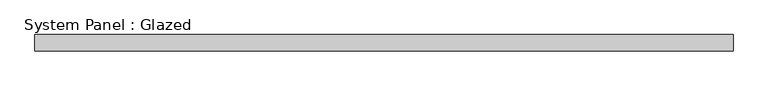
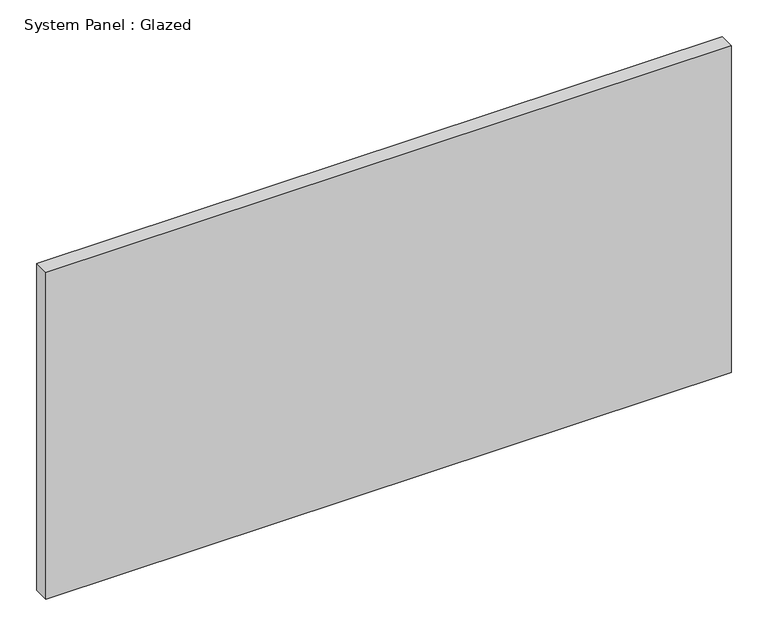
"""IFC4 building model written with IfcOpenShell, lengths in millimetres: plate geometry, System Panel : Glazed."""

import ifcopenshell
import ifcopenshell.guid

model = None  # the IFC model being written
_history = None  # IfcOwnerHistory: only IFC2X3 demands one
_inside = {}  # id of a spatial element -> (the spatial element, [elements in it])
_under = {}  # id of a project, library or spatial element -> (it, [spatial elements below it])
_declared = {}  # id of a project -> (the project, [libraries it declares])
_typed = {}  # id of a type object -> (the type object, [elements of that type])
_made_of = {}  # id of a material, layer set ... -> (it, [elements and type objects made of it])


def new_model(schema):
    """Start an empty IFC model of exactly this schema.

    Asked for "IFC4X3", IfcOpenShell would pick the latest addendum, in which some entities
    have other attributes; the version numbers below select the first issue.
    IFC2X3 requires an IfcOwnerHistory on every rooted entity: one is made here for all.
    """
    global model, _history
    if schema == "IFC4X3":
        model = ifcopenshell.file(schema_version=(4, 3, 0, 0))
    else:
        model = ifcopenshell.file(schema=schema)
    _inside.clear()
    _under.clear()
    _declared.clear()
    _typed.clear()
    _made_of.clear()
    _history = None
    if model.schema == "IFC2X3":
        org = make("IfcOrganization", Name="unknown")
        user = make(
            "IfcPersonAndOrganization",
            ThePerson=make("IfcPerson", FamilyName="unknown"),
            TheOrganization=org,
        )
        app = make(
            "IfcApplication",
            ApplicationDeveloper=org,
            Version="unknown",
            ApplicationFullName="unknown",
            ApplicationIdentifier="unknown",
        )
        _history = make(
            "IfcOwnerHistory",
            OwningUser=user,
            OwningApplication=app,
            ChangeAction="ADDED",
            CreationDate=0,
        )
    return model


def make(cls, **values):
    """One entity of the class cls with the attributes given. An attribute that is None is left unset."""
    return model.create_entity(
        cls, **{name: value for name, value in values.items() if value is not None}
    )


def rooted(cls, **values):
    """An entity with a GlobalId (a new one), such as an element, a storey or a relation."""
    return make(cls, GlobalId=ifcopenshell.guid.new(), OwnerHistory=_history, **values)


def si_unit(unit_type, name, prefix=None):
    """IfcSIUnit, for example si_unit("LENGTHUNIT", "METRE", prefix="MILLI")."""
    return make("IfcSIUnit", UnitType=unit_type, Prefix=prefix, Name=name)


def assignment(units):
    """IfcUnitAssignment: the units of a project."""
    return None if units is None else make("IfcUnitAssignment", Units=units)


def point(xyz):
    """IfcCartesianPoint."""
    return None if xyz is None else make("IfcCartesianPoint", Coordinates=xyz)


def direction(xyz):
    """IfcDirection."""
    return None if xyz is None else make("IfcDirection", DirectionRatios=xyz)


def frame(location, z_axis=None, x_axis=None):
    """IfcAxis2Placement3D, a coordinate frame: its origin and axes. An axis left out is left unset."""
    return make(
        "IfcAxis2Placement3D",
        Location=point(location),
        Axis=direction(z_axis),
        RefDirection=direction(x_axis),
    )


def origin():
    """The frame at (0, 0, 0) with its axes left unset."""
    return frame((0.0, 0.0, 0.0))


def origin_with_axes():
    """The frame at (0, 0, 0) with the z axis (0, 0, 1) and the x axis (1, 0, 0) written out."""
    return frame((0.0, 0.0, 0.0), z_axis=(0.0, 0.0, 1.0), x_axis=(1.0, 0.0, 0.0))


def place(relative_to, where):
    """IfcLocalPlacement: puts the frame where relative to a parent placement (None: the world)."""
    return make(
        "IfcLocalPlacement", PlacementRelTo=relative_to, RelativePlacement=where
    )


def context(
    kind, dimensions, precision=None, world=None, true_north=None, identifier=None
):
    """IfcGeometricRepresentationContext, for example the 3D "Model" context."""
    return make(
        "IfcGeometricRepresentationContext",
        ContextIdentifier=identifier,
        ContextType=kind,
        CoordinateSpaceDimension=dimensions,
        Precision=precision,
        WorldCoordinateSystem=world,
        TrueNorth=true_north,
    )


def project(units=None, contexts=None):
    """IfcProject with its units and contexts."""
    return rooted(
        "IfcProject",
        Name="project",
        RepresentationContexts=contexts,
        UnitsInContext=assignment(units),
    )


def spatial(cls, under=None, at=None, **own):
    """A site, building, storey or space (cls), placed at a placement, below another one or the project."""
    s = rooted(cls, ObjectPlacement=at, **own)
    if under is not None:
        _under.setdefault(under.id(), (under, []))[1].append(s)
    return s


def polyline(points):
    """IfcPolyline through the points."""
    return make("IfcPolyline", Points=[point(p) for p in points])


def outline(outer, holes=None, kind="AREA"):
    """IfcArbitraryClosedProfileDef: a profile drawn as a closed curve; with holes, ...WithVoids."""
    if holes is None:
        return make("IfcArbitraryClosedProfileDef", ProfileType=kind, OuterCurve=outer)
    return make(
        "IfcArbitraryProfileDefWithVoids",
        ProfileType=kind,
        OuterCurve=outer,
        InnerCurves=holes,
    )


def extrude(swept, where, along, depth):
    """IfcExtrudedAreaSolid: the profile swept, set in the frame where, extruded along a direction by depth."""
    return make(
        "IfcExtrudedAreaSolid",
        SweptArea=swept,
        Position=where,
        ExtrudedDirection=direction(along),
        Depth=depth,
    )


def shape(context_of_items, identifier, shape_type, items):
    """IfcShapeRepresentation: the items that make up one representation, for example the "Body"."""
    return make(
        "IfcShapeRepresentation",
        ContextOfItems=context_of_items,
        RepresentationIdentifier=identifier,
        RepresentationType=shape_type,
        Items=items,
    )


def source(mapping_origin, context_of_items, identifier, shape_type, items):
    """IfcRepresentationMap: a shape defined once, which mapped items show again and again."""
    return make(
        "IfcRepresentationMap",
        MappingOrigin=mapping_origin,
        MappedRepresentation=shape(context_of_items, identifier, shape_type, items),
    )


def transform(
    local_origin,
    x_axis=None,
    y_axis=None,
    z_axis=None,
    scale=None,
    scale2=None,
    scale3=None,
    uniform=True,
):
    """IfcCartesianTransformationOperator3D, or its non-uniform kind. x_axis, y_axis, z_axis: its Axis1, 2, 3."""
    if uniform:
        return make(
            "IfcCartesianTransformationOperator3D",
            Axis1=direction(x_axis),
            Axis2=direction(y_axis),
            LocalOrigin=point(local_origin),
            Scale=scale,
            Axis3=direction(z_axis),
        )
    return make(
        "IfcCartesianTransformationOperator3DnonUniform",
        Axis1=direction(x_axis),
        Axis2=direction(y_axis),
        LocalOrigin=point(local_origin),
        Scale=scale,
        Axis3=direction(z_axis),
        Scale2=scale2,
        Scale3=scale3,
    )


def mapped(mapping_source, mapping_target):
    """IfcMappedItem: shows the shape of a source again, moved by a transform."""
    return make(
        "IfcMappedItem", MappingSource=mapping_source, MappingTarget=mapping_target
    )


def made_of(thing, what):
    """Note that an element or type object is made of a material, layer set ...; save() writes the relation."""
    if what is not None:
        _made_of.setdefault(what.id(), (what, []))[1].append(thing)
    return thing


def element(
    cls,
    number,
    at=None,
    inside=None,
    cuts=None,
    type_object=None,
    material=None,
    context=None,
    identifier="Body",
    shape_type=None,
    held_by="IfcProductDefinitionShape",
    body=None,
    shapes=None,
    **own,
):
    """One element of the class cls, such as IfcWall. Its Tag is "e" and its number.

    at: its placement. inside: the storey or other place that contains it. cuts: it is an
    opening in that element (IfcRelVoidsElement). A single representation is given by context,
    identifier, shape_type and body (its items); several are given by shapes. held_by: the class
    of the entity that holds the representations. save() writes the other relations.
    """
    e = rooted(cls, Tag="e%d" % number, ObjectPlacement=at, **own)
    if body is not None:
        shapes = [shape(context, identifier, shape_type, body)]
    if shapes is not None:
        e.Representation = make(held_by, Representations=shapes)
    if inside is not None:
        _inside.setdefault(inside.id(), (inside, []))[1].append(e)
    if cuts is not None:
        rooted(
            "IfcRelVoidsElement", RelatingBuildingElement=cuts, RelatedOpeningElement=e
        )
    if type_object is not None:
        _typed.setdefault(type_object.id(), (type_object, []))[1].append(e)
    return made_of(e, material)


def aggregate(whole, parts):
    """IfcRelAggregates: a whole, such as a stair, and the parts it consists of."""
    return rooted("IfcRelAggregates", RelatingObject=whole, RelatedObjects=parts)


def save(model, path):
    """Write the relations noted so far, then the file.

    IfcRelAggregates (storeys below a building ...), IfcRelContainedInSpatialStructure (elements
    in a storey), IfcRelDefinesByType, IfcRelAssociatesMaterial and IfcRelDeclares: one each for
    every whole, place, type object, material and project.
    """
    for whole, parts in _under.values():
        aggregate(whole, parts)
    for where, things in _inside.values():
        rooted(
            "IfcRelContainedInSpatialStructure",
            RelatedElements=things,
            RelatingStructure=where,
        )
    for kind, things in _typed.values():
        rooted("IfcRelDefinesByType", RelatedObjects=things, RelatingType=kind)
    for what, things in _made_of.values():
        rooted("IfcRelAssociatesMaterial", RelatedObjects=things, RelatingMaterial=what)
    for by, libraries in _declared.values():
        rooted("IfcRelDeclares", RelatingContext=by, RelatedDefinitions=libraries)
    model.write(path)


def system_panel_glazed_5164f022(model_context):
    return source(origin(), model_context, "Body", "SweptSolid", [
        extrude(outline(polyline([(541.655, -44.45), (-541.655, -44.45), (-541.655, -19.05), (541.655, -19.05), (541.655, -44.45)])), origin_with_axes(), (0.0, 0.0, 1.0), 546.1),
    ])


if __name__ == "__main__":
    model = new_model("IFC4")
    model_context = context("Model", 3, world=origin())
    ifc_project = project(units=[si_unit("LENGTHUNIT", "METRE", prefix="MILLI")], contexts=[model_context])
    site = spatial("IfcSite", under=ifc_project)
    building = spatial("IfcBuilding", under=site)
    placement = place(None, origin())
    system_panel_glazed_shape = system_panel_glazed_5164f022(model_context)
    element("IfcPlate", 1, ObjectType="System Panel : Glazed", at=placement, inside=building, context=model_context, shape_type="MappedRepresentation", body=[
        mapped(system_panel_glazed_shape, transform((0.0, 0.0, 0.0), x_axis=(1.0, 0.0, 0.0), y_axis=(0.0, 1.0, 0.0), z_axis=(0.0, 0.0, 1.0))),
    ])
    save(model, "model.ifc")
